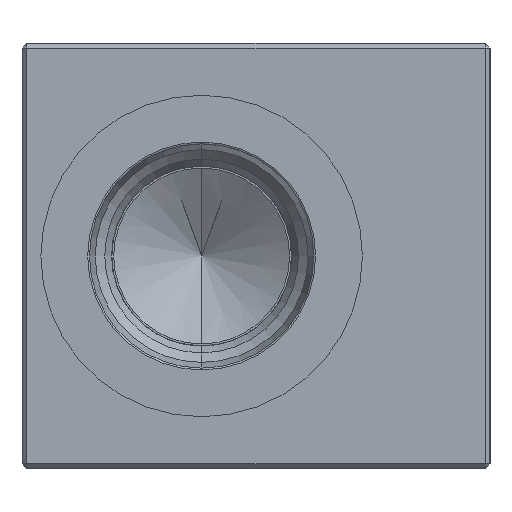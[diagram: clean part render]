
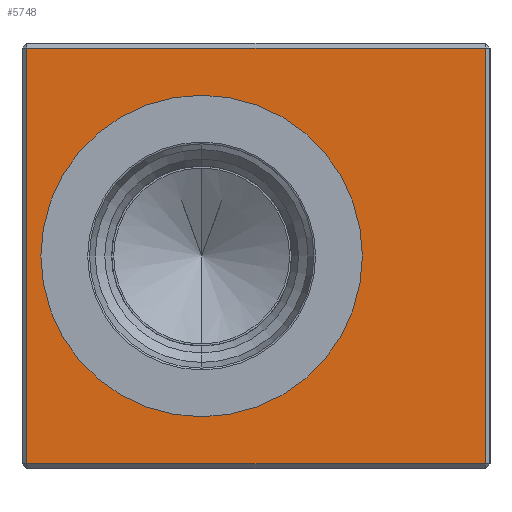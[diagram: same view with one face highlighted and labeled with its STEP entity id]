
A CAD part, left-side view. The second image highlights one B-rep face of the part: STEP entity #5748.
In plain terms, the highlighted planar face has unit normal (-1, 0, 0).
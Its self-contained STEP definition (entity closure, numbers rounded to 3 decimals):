
#822 = DIRECTION ( 'NONE',  ( 0., 0., 1. ) ) ;
#943 = CARTESIAN_POINT ( 'NONE',  ( 0., 5.75, 17. ) ) ;
#952 = CIRCLE ( 'NONE', #2512, 17. ) ;
#1073 = VERTEX_POINT ( 'NONE', #5277 ) ;
#1161 = CARTESIAN_POINT ( 'NONE',  ( 0., 24.25, 22. ) ) ;
#1231 = EDGE_CURVE ( 'NONE', #1073, #2182, #4865, .T. ) ;
#1384 = CARTESIAN_POINT ( 'NONE',  ( 0., 0., 0. ) ) ;
#1612 = DIRECTION ( 'NONE',  ( 0., 1., 0. ) ) ;
#1729 = PLANE ( 'NONE',  #4888 ) ;
#1760 = LINE ( 'NONE', #2919, #6755 ) ;
#1790 = EDGE_CURVE ( 'NONE', #2182, #1884, #6274, .T. ) ;
#1884 = VERTEX_POINT ( 'NONE', #1161 ) ;
#2095 = VECTOR ( 'NONE', #1612, 1000. ) ;
#2099 = EDGE_LOOP ( 'NONE', ( #2725, #5785 ) ) ;
#2149 = VERTEX_POINT ( 'NONE', #5717 ) ;
#2182 = VERTEX_POINT ( 'NONE', #4927 ) ;
#2229 = EDGE_LOOP ( 'NONE', ( #6475, #5358, #5713, #5495 ) ) ;
#2294 = CARTESIAN_POINT ( 'NONE',  ( 0., -24.25, 22.5 ) ) ;
#2393 = VECTOR ( 'NONE', #6800, 1000. ) ;
#2512 = AXIS2_PLACEMENT_3D ( 'NONE', #4450, #4911, #822 ) ;
#2725 = ORIENTED_EDGE ( 'NONE', *, *, #4115, .F. ) ;
#2919 = CARTESIAN_POINT ( 'NONE',  ( 0., -24.75, -22. ) ) ;
#2920 = CIRCLE ( 'NONE', #3032, 17. ) ;
#3032 = AXIS2_PLACEMENT_3D ( 'NONE', #3590, #4591, #4075 ) ;
#3590 = CARTESIAN_POINT ( 'NONE',  ( 0., 5.75, 0. ) ) ;
#4075 = DIRECTION ( 'NONE',  ( 0., 0., 1. ) ) ;
#4115 = EDGE_CURVE ( 'NONE', #4904, #2149, #2920, .T. ) ;
#4234 = FACE_BOUND ( 'NONE', #2099, .T. ) ;
#4329 = DIRECTION ( 'NONE',  ( 0., 0., 1. ) ) ;
#4450 = CARTESIAN_POINT ( 'NONE',  ( 0., 5.75, 0. ) ) ;
#4591 = DIRECTION ( 'NONE',  ( -1., 0., 0. ) ) ;
#4638 = EDGE_CURVE ( 'NONE', #1884, #6482, #5299, .T. ) ;
#4828 = EDGE_CURVE ( 'NONE', #2149, #4904, #952, .T. ) ;
#4844 = CARTESIAN_POINT ( 'NONE',  ( 0., 24.25, -22. ) ) ;
#4865 = LINE ( 'NONE', #2294, #5179 ) ;
#4888 = AXIS2_PLACEMENT_3D ( 'NONE', #1384, #6553, #6618 ) ;
#4904 = VERTEX_POINT ( 'NONE', #943 ) ;
#4911 = DIRECTION ( 'NONE',  ( -1., 0., 0. ) ) ;
#4927 = CARTESIAN_POINT ( 'NONE',  ( 0., -24.25, 22. ) ) ;
#5179 = VECTOR ( 'NONE', #4329, 1000. ) ;
#5229 = CARTESIAN_POINT ( 'NONE',  ( 0., 24.25, -22.5 ) ) ;
#5235 = CARTESIAN_POINT ( 'NONE',  ( 0., 24.75, 22. ) ) ;
#5277 = CARTESIAN_POINT ( 'NONE',  ( 0., -24.25, -22. ) ) ;
#5299 = LINE ( 'NONE', #5229, #2393 ) ;
#5358 = ORIENTED_EDGE ( 'NONE', *, *, #1231, .T. ) ;
#5489 = DIRECTION ( 'NONE',  ( 0., -1., 0. ) ) ;
#5495 = ORIENTED_EDGE ( 'NONE', *, *, #4638, .T. ) ;
#5713 = ORIENTED_EDGE ( 'NONE', *, *, #1790, .T. ) ;
#5717 = CARTESIAN_POINT ( 'NONE',  ( 0., 5.75, -17. ) ) ;
#5748 = ADVANCED_FACE ( 'NONE', ( #6447, #4234 ), #1729, .T. ) ;
#5785 = ORIENTED_EDGE ( 'NONE', *, *, #4828, .F. ) ;
#6274 = LINE ( 'NONE', #5235, #2095 ) ;
#6447 = FACE_OUTER_BOUND ( 'NONE', #2229, .T. ) ;
#6475 = ORIENTED_EDGE ( 'NONE', *, *, #6791, .T. ) ;
#6482 = VERTEX_POINT ( 'NONE', #4844 ) ;
#6553 = DIRECTION ( 'NONE',  ( -1., 0., 0. ) ) ;
#6618 = DIRECTION ( 'NONE',  ( 0., 0., 1. ) ) ;
#6755 = VECTOR ( 'NONE', #5489, 1000. ) ;
#6791 = EDGE_CURVE ( 'NONE', #6482, #1073, #1760, .T. ) ;
#6800 = DIRECTION ( 'NONE',  ( 0., 0., -1. ) ) ;
